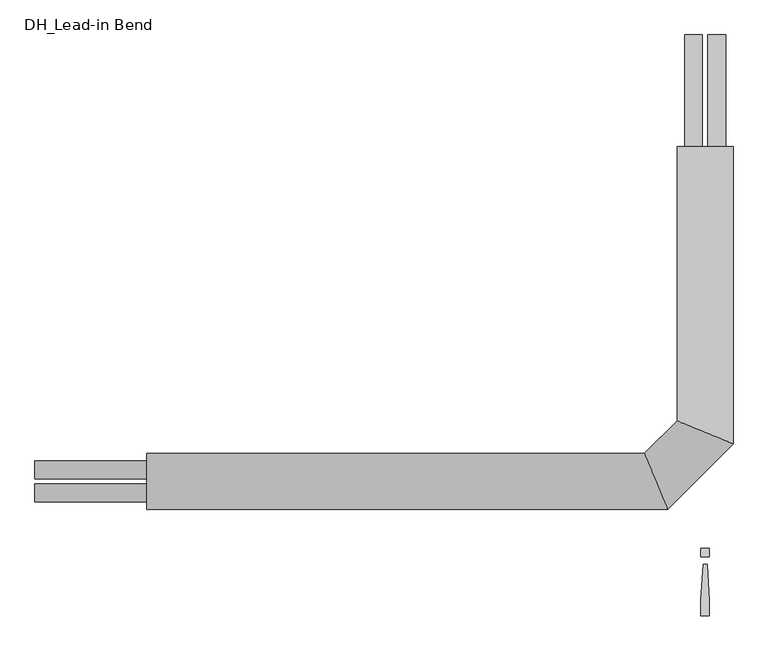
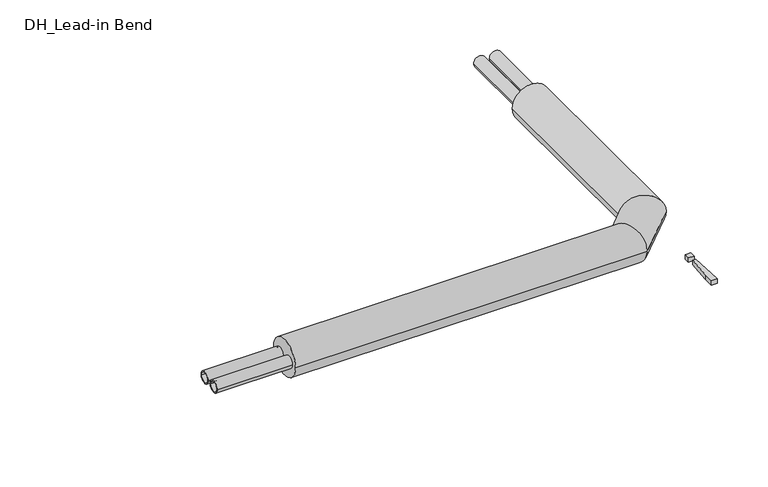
"""IFC4 building model written with IfcOpenShell, lengths in millimetres: pipe fitting geometry, DH_Lead-in Bend : INSULPEX DUO 11 Heating Vertical."""

from ifc_helpers import new_model, si_unit, point, frame, frame_2d, origin, origin_with_axes, place, context, project, spatial, polyline, circle_curve, ellipse_curve, trimmed, segment, composite_curve, outline, extrude, source, transform, mapped, element, save
from ifc_brep_helpers import plane_surface, cylinder_surface, advanced_brep


def dh_lead_in_bend_05f9b5ea(model_context):
    return source(origin(), model_context, "Body", "SolidModel", [
        extrude(outline(composite_curve([segment(trimmed(circle_curve(frame_2d((-26.0, 0.0)), 20.0), [point((-6.0, 0.0))], [point((-46.0, 0.0))], False, "CARTESIAN"), True, "CONTINUOUS"), segment(trimmed(circle_curve(frame_2d((-26.0, 0.0)), 20.0), [point((-46.0, 0.0))], [point((-6.0, 0.0))], False, "CARTESIAN"), True, "CONTINUOUS")], self_intersect=False), holes=[composite_curve([segment(trimmed(circle_curve(frame_2d((-26.0, 0.0)), 16.3), [point((-9.7, 0.0))], [point((-42.3, 0.0))], True, "CARTESIAN"), True, "CONTINUOUS"), segment(trimmed(circle_curve(frame_2d((-26.0, 0.0)), 16.3), [point((-42.3, 0.0))], [point((-9.7, 0.0))], True, "CARTESIAN"), True, "CONTINUOUS")], self_intersect=False)]), frame((-1500.0, 0.0, 0.0), z_axis=(1.0, 0.0, 0.0), x_axis=(0.0, 1.0, 0.0)), (0.0, 0.0, 1.0), 250.0),
        advanced_brep(
        [(-1250.0, -62.5, 0.0), (-1250.0, 62.5, 0.0), (-84.1116524, -62.5, 0.0), (-135.8883476, 62.5, 0.0), (62.5, 750.0, 0.0), (-62.5, 750.0, 0.0), (-62.5, 135.8883476, 0.0), (62.5, 84.1116524, 0.0)],
        [
            (0, 1, circle_curve(frame((-1250.0, 0.0, 0.0), z_axis=(-1.0, 0.0, 0.0), x_axis=(0.0, 1.0, 0.0)), 62.5)),
            (1, 0, circle_curve(frame((-1250.0, 0.0, 0.0), z_axis=(-1.0, 0.0, 0.0), x_axis=(0.0, 1.0, 0.0)), 62.5)),
            (0, 2),
            (2, 3, ellipse_curve(frame((-110.0, 0.0, 0.0), z_axis=(-0.9238795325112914, -0.3826834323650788, 0.0), x_axis=(-0.38268343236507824, 0.9238795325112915, 0.0)), 67.6495125, 62.5)),
            (3, 1),
            (3, 2, ellipse_curve(frame((-110.0, 0.0, 0.0), z_axis=(-0.9238795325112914, -0.3826834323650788, 0.0), x_axis=(-0.38268343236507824, 0.9238795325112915, 0.0)), 67.6495125, 62.5)),
            (4, 5, circle_curve(frame((0.0, 750.0, 0.0), z_axis=(0.0, 1.0, 0.0), x_axis=(-1.0, 0.0, 0.0)), 62.5)),
            (5, 4, circle_curve(frame((0.0, 750.0, 0.0), z_axis=(0.0, 1.0, 0.0), x_axis=(-1.0, 0.0, 0.0)), 62.5)),
            (6, 7, ellipse_curve(frame((0.0, 110.0, 0.0), z_axis=(0.38268343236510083, 0.9238795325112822, 0.0), x_axis=(0.9238795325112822, -0.3826834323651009, 0.0)), 67.6495125, 62.5)),
            (7, 4),
            (5, 6),
            (7, 6, ellipse_curve(frame((0.0, 110.0, 0.0), z_axis=(0.38268343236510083, 0.9238795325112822, 0.0), x_axis=(0.9238795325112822, -0.3826834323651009, 0.0)), 67.6495125, 62.5)),
            (2, 7),
            (6, 3),
        ],
        [
            plane_surface(frame((-1250.0, 0.0, 0.0), z_axis=(-1.0, 0.0, 0.0), x_axis=(0.0, 0.0, 1.0))),
            cylinder_surface(frame((-1250.0, 0.0, 0.0), z_axis=(-1.0, 0.0, 0.0), x_axis=(0.0, 1.0, 0.0)), 62.5),
            plane_surface(frame((0.0, 750.0, 0.0), z_axis=(0.0, 1.0, 0.0), x_axis=(0.0, 0.0, 1.0))),
            cylinder_surface(frame((0.0, 110.0, 0.0), z_axis=(0.0, -1.0, 0.0), x_axis=(-1.0, 0.0, 0.0)), 62.5),
            cylinder_surface(frame((-110.0, 0.0, 0.0), z_axis=(-0.7071067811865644, -0.7071067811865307, 0.0), x_axis=(-0.7071067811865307, 0.7071067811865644, 0.0)), 62.5),
        ],
        [
            (0, [[1, 2]]),
            (1, [[-1, 3, 4, 5]]),
            (1, [[-2, -5, 6, -3]]),
            (2, [[7, 8]]),
            (3, [[9, 10, -8, 11]]),
            (3, [[12, -11, -7, -10]]),
            (4, [[-4, 13, -9, 14]]),
            (4, [[-6, -14, -12, -13]]),
        ],
    ),
        extrude(outline(composite_curve([segment(trimmed(circle_curve(frame_2d((0.0, -26.0)), 20.0), [point((0.0, -6.0))], [point((0.0, -46.0))], False, "CARTESIAN"), True, "CONTINUOUS"), segment(trimmed(circle_curve(frame_2d((0.0, -26.0)), 20.0), [point((0.0, -46.0))], [point((0.0, -6.0))], False, "CARTESIAN"), True, "CONTINUOUS")], self_intersect=False), holes=[composite_curve([segment(trimmed(circle_curve(frame_2d((0.0, -26.0)), 16.3), [point((0.0, -9.7))], [point((0.0, -42.3))], True, "CARTESIAN"), True, "CONTINUOUS"), segment(trimmed(circle_curve(frame_2d((0.0, -26.0)), 16.3), [point((0.0, -42.3))], [point((0.0, -9.7))], True, "CARTESIAN"), True, "CONTINUOUS")], self_intersect=False)]), frame((0.0, 750.0, 0.0), z_axis=(0.0, 1.0, 0.0), x_axis=(0.0, 0.0, 1.0)), (0.0, 0.0, 1.0), 250.0),
        extrude(outline(composite_curve([segment(trimmed(circle_curve(frame_2d((26.0, 0.0)), 20.0), [point((6.0, 0.0))], [point((46.0, 0.0))], False, "CARTESIAN"), True, "CONTINUOUS"), segment(trimmed(circle_curve(frame_2d((26.0, 0.0)), 20.0), [point((46.0, 0.0))], [point((6.0, 0.0))], False, "CARTESIAN"), True, "CONTINUOUS")], self_intersect=False), holes=[composite_curve([segment(trimmed(circle_curve(frame_2d((26.0, 0.0)), 16.3), [point((9.7, 0.0))], [point((42.3, 0.0))], True, "CARTESIAN"), True, "CONTINUOUS"), segment(trimmed(circle_curve(frame_2d((26.0, 0.0)), 16.3), [point((42.3, 0.0))], [point((9.7, 0.0))], True, "CARTESIAN"), True, "CONTINUOUS")], self_intersect=False)]), frame((-1500.0, 0.0, 0.0), z_axis=(1.0, 0.0, 0.0), x_axis=(0.0, 1.0, 0.0)), (0.0, 0.0, 1.0), 250.0),
        extrude(outline(composite_curve([segment(trimmed(circle_curve(frame_2d((0.0, 26.0)), 20.0), [point((0.0, 6.0))], [point((0.0, 46.0))], False, "CARTESIAN"), True, "CONTINUOUS"), segment(trimmed(circle_curve(frame_2d((0.0, 26.0)), 20.0), [point((0.0, 46.0))], [point((0.0, 6.0))], False, "CARTESIAN"), True, "CONTINUOUS")], self_intersect=False), holes=[composite_curve([segment(trimmed(circle_curve(frame_2d((0.0, 26.0)), 16.3), [point((0.0, 9.7))], [point((0.0, 42.3))], True, "CARTESIAN"), True, "CONTINUOUS"), segment(trimmed(circle_curve(frame_2d((0.0, 26.0)), 16.3), [point((0.0, 42.3))], [point((0.0, 9.7))], True, "CARTESIAN"), True, "CONTINUOUS")], self_intersect=False)]), frame((0.0, 750.0, 0.0), z_axis=(0.0, 1.0, 0.0), x_axis=(0.0, 0.0, 1.0)), (0.0, 0.0, 1.0), 250.0),
        extrude(outline(polyline([(4.7088895, -185.3166715), (9.4177791, -266.6553807), (9.4177791, -300.6844652), (-9.4177791, -300.6844652), (-9.4177791, -266.6553807), (-4.7088895, -185.3166715), (4.7088895, -185.3166715)])), origin_with_axes(), (0.0, 0.0, 1.0), 15.0),
        extrude(outline(polyline([(9.4177791, -150.0), (9.4177791, -168.8355582), (-9.4177791, -168.8355582), (-9.4177791, -150.0), (9.4177791, -150.0)])), origin_with_axes(), (0.0, 0.0, 1.0), 15.0),
    ])


if __name__ == "__main__":
    model = new_model("IFC4")
    model_context = context("Model", 3, world=origin())
    ifc_project = project(units=[si_unit("LENGTHUNIT", "METRE", prefix="MILLI")], contexts=[model_context])
    site = spatial("IfcSite", under=ifc_project)
    building = spatial("IfcBuilding", under=site)
    placement = place(None, origin())
    dh_lead_in_bend_shape = dh_lead_in_bend_05f9b5ea(model_context)
    element("IfcPipeFitting", 1, ObjectType="DH_Lead-in Bend : INSULPEX DUO 11 Heating Vertical", at=placement, inside=building, context=model_context, shape_type="MappedRepresentation", body=[
        mapped(dh_lead_in_bend_shape, transform((0.0, 0.0, 0.0), x_axis=(1.0, 0.0, 0.0), y_axis=(0.0, 1.0, 0.0), z_axis=(0.0, 0.0, 1.0))),
    ])
    save(model, "model.ifc")
